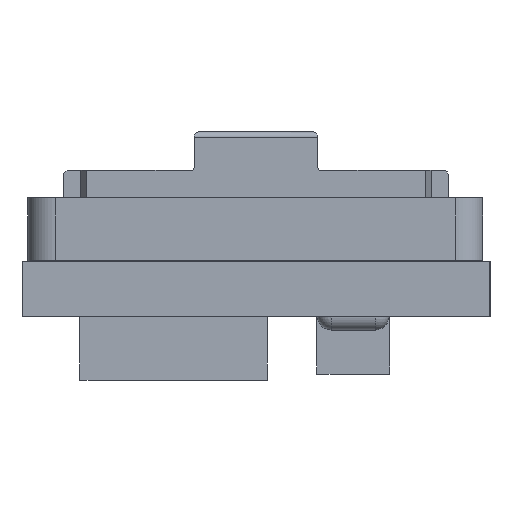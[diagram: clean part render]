
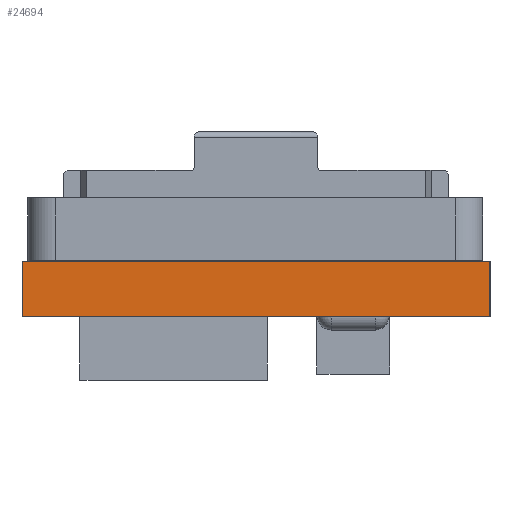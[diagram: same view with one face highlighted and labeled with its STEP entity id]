
A CAD part, left-side view. The second image highlights one B-rep face of the part: STEP entity #24694.
In plain terms, the highlighted planar face has unit normal (-1, 0, 0).
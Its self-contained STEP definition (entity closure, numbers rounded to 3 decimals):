
#149 = ORIENTED_EDGE ( 'NONE', *, *, #31533, .T. ) ;
#170 = B_SPLINE_CURVE_WITH_KNOTS ( 'NONE', 3,
 ( #13903, #6699, #27198, #3785 ),
 .UNSPECIFIED., .F., .F.,
 ( 4, 4 ),
 ( 0., 1. ),
 .UNSPECIFIED. ) ;
#2102 = CARTESIAN_POINT ( 'NONE',  ( -4., 9.367, -2. ) ) ;
#3785 = CARTESIAN_POINT ( 'NONE',  ( -4., 20.7, 0. ) ) ;
#4351 = ORIENTED_EDGE ( 'NONE', *, *, #6397, .F. ) ;
#6397 = EDGE_CURVE ( 'NONE', #27241, #31481, #16627, .T. ) ;
#6699 = CARTESIAN_POINT ( 'NONE',  ( -4., 20.7, -1.333 ) ) ;
#6850 = DIRECTION ( 'NONE',  ( -1., 0., 0. ) ) ;
#7067 = CARTESIAN_POINT ( 'NONE',  ( -4., 3.7, -2. ) ) ;
#7365 = EDGE_CURVE ( 'NONE', #31481, #20632, #170, .T. ) ;
#7803 = CARTESIAN_POINT ( 'NONE',  ( -4., 3.7, -2. ) ) ;
#10157 = CARTESIAN_POINT ( 'NONE',  ( -4., 20.7, -2. ) ) ;
#10159 = VERTEX_POINT ( 'NONE', #31874 ) ;
#11151 = CARTESIAN_POINT ( 'NONE',  ( -4., 20.7, -2. ) ) ;
#12938 = EDGE_LOOP ( 'NONE', ( #13860, #4351, #18212, #149 ) ) ;
#13180 = CARTESIAN_POINT ( 'NONE',  ( -4., 9.367, 0. ) ) ;
#13250 = CARTESIAN_POINT ( 'NONE',  ( -4., 3.7, 0. ) ) ;
#13423 = EDGE_CURVE ( 'NONE', #10159, #27241, #31350, .T. ) ;
#13427 = CARTESIAN_POINT ( 'NONE',  ( -4., 3.7, -1.333 ) ) ;
#13860 = ORIENTED_EDGE ( 'NONE', *, *, #7365, .F. ) ;
#13903 = CARTESIAN_POINT ( 'NONE',  ( -4., 20.7, -2. ) ) ;
#13919 = CARTESIAN_POINT ( 'NONE',  ( -4., 3.7, -2. ) ) ;
#14722 = CARTESIAN_POINT ( 'NONE',  ( -4., 3.7, -2. ) ) ;
#15094 = CARTESIAN_POINT ( 'NONE',  ( -4., 20.7, 0. ) ) ;
#15821 = B_SPLINE_CURVE_WITH_KNOTS ( 'NONE', 3,
 ( #26652, #13180, #29046, #31972 ),
 .UNSPECIFIED., .F., .F.,
 ( 4, 4 ),
 ( 0., 1. ),
 .UNSPECIFIED. ) ;
#16627 = B_SPLINE_CURVE_WITH_KNOTS ( 'NONE', 3,
 ( #7067, #2102, #33557, #10157 ),
 .UNSPECIFIED., .F., .F.,
 ( 4, 4 ),
 ( 0., 1. ),
 .UNSPECIFIED. ) ;
#16960 = FACE_OUTER_BOUND ( 'NONE', #12938, .T. ) ;
#18212 = ORIENTED_EDGE ( 'NONE', *, *, #13423, .F. ) ;
#18370 = CARTESIAN_POINT ( 'NONE',  ( -4., 3.7, -0.667 ) ) ;
#20632 = VERTEX_POINT ( 'NONE', #15094 ) ;
#22252 = PLANE ( 'NONE',  #24049 ) ;
#24049 = AXIS2_PLACEMENT_3D ( 'NONE', #14722, #6850, #28009 ) ;
#24694 = ADVANCED_FACE ( 'NONE', ( #16960 ), #22252, .T. ) ;
#26652 = CARTESIAN_POINT ( 'NONE',  ( -4., 3.7, 0. ) ) ;
#27198 = CARTESIAN_POINT ( 'NONE',  ( -4., 20.7, -0.667 ) ) ;
#27241 = VERTEX_POINT ( 'NONE', #13919 ) ;
#28009 = DIRECTION ( 'NONE',  ( 0., 0., 1. ) ) ;
#29046 = CARTESIAN_POINT ( 'NONE',  ( -4., 15.033, 0. ) ) ;
#31350 = B_SPLINE_CURVE_WITH_KNOTS ( 'NONE', 3,
 ( #13250, #18370, #13427, #7803 ),
 .UNSPECIFIED., .F., .F.,
 ( 4, 4 ),
 ( 0., 1. ),
 .UNSPECIFIED. ) ;
#31481 = VERTEX_POINT ( 'NONE', #11151 ) ;
#31533 = EDGE_CURVE ( 'NONE', #10159, #20632, #15821, .T. ) ;
#31874 = CARTESIAN_POINT ( 'NONE',  ( -4., 3.7, 0. ) ) ;
#31972 = CARTESIAN_POINT ( 'NONE',  ( -4., 20.7, 0. ) ) ;
#33557 = CARTESIAN_POINT ( 'NONE',  ( -4., 15.033, -2. ) ) ;
